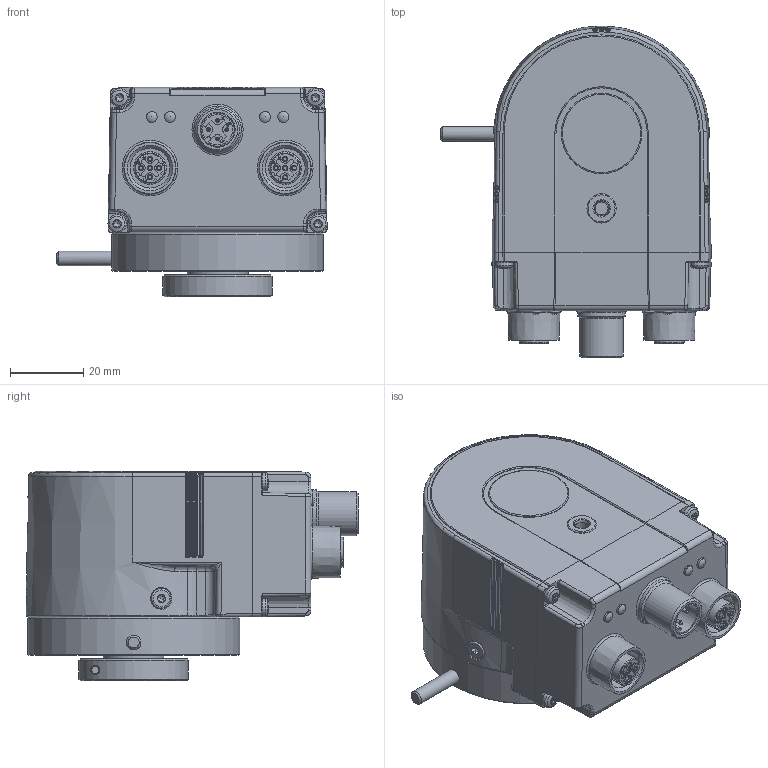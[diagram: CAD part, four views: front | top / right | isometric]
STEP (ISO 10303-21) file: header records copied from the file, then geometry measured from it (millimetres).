
FILE_DESCRIPTION( ( 'Unknown' ), '1' );
FILE_NAME( '//emea.baumernet.org/de01apps/Konstr_Zchng/3D_Zeichnung/Produkte/EAL580_neu_Feldbus/Marketing/Step_fuer_Homepage/EAL580-BPF.4WPT.xxxx0.A.stp', 'Unknown', ( 'Unknown' ), ( 'Unknown' ), 'PSStep 15.0.49', 'Unknown', ' ' );
FILE_SCHEMA( ( 'AUTOMOTIVE_DESIGN { 1 0 10303 214 1 1 1 1 }' ) );
Length unit declared in the file: millimetre
Products named in the file (1): 11159055_PhoenixContact_1411996_0
Bounding box: 74 x 90.86 x 57.4 mm (x, y, z)
Volume: 191139.3 mm3; surface area: 28871.9 mm2
Topology: 1 solids, 1 shells, 1192 faces, 3146 edges, 1984 vertices
Faces by surface type: plane 625, cylinder 285, cone 123, bspline 71, torus 62, sphere 26
Full cylindrical faces by diameter (mm): 1 x4, 1.05 x8, 1.1 x2, 1.7 x2, 2.459 x4, 2.5 x3, 3 x6, 3.2 x1, 4 x1, 5 x4, 5.5 x4, 6 x3, 7.5 x2, 8 x2, 8.2 x2, 8.9 x2, 9 x2, 9.45 x1, 9.6 x1, 10.917 x2, 12 x1, 13 x1, 15 x1, 16.2 x1, 16.7 x1, 16.95 x1, 17 x1, 20.2 x1, 22 x1, 23.2 x1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
Entity records: 52961 total; most frequent: CARTESIAN_POINT 15650, ORIENTED_EDGE 5694, DIRECTION 5611, EDGE_CURVE 2847, AXIS2_PLACEMENT_3D 1953, VERTEX_POINT 1893, LINE 1705, VECTOR 1705
